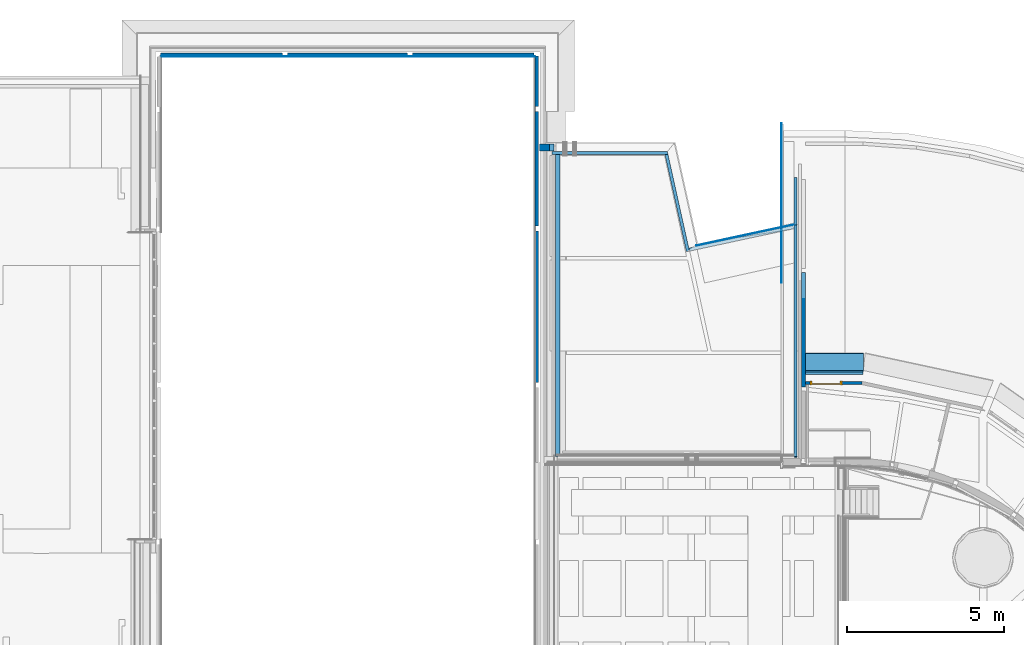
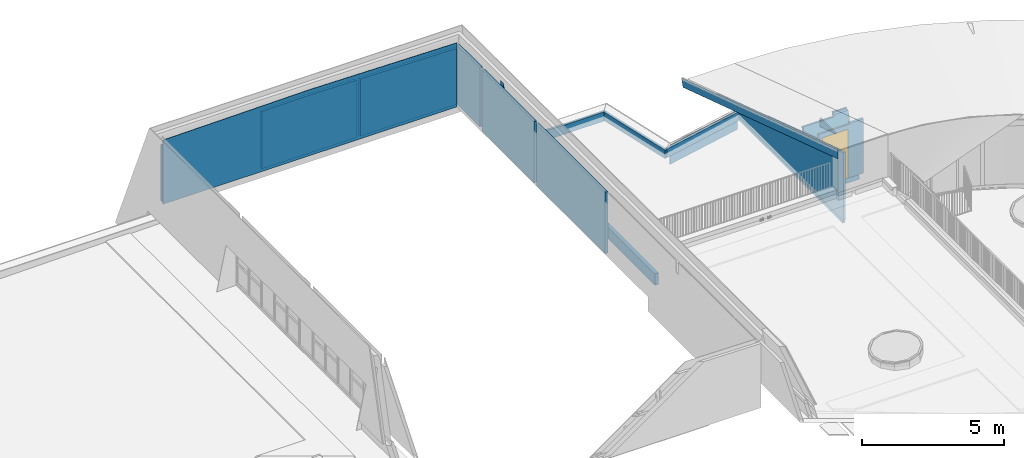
# One storey, part 37 of 66: 20 walls, 1 door, 3 openings.
"""IFC2X3 building model written with IfcOpenShell, lengths in millimetres."""

import ifcopenshell
import ifcopenshell.guid

model = None  # the IFC model being written
_history = None  # IfcOwnerHistory: only IFC2X3 demands one
_inside = {}  # id of a spatial element -> (the spatial element, [elements in it])
_under = {}  # id of a project, library or spatial element -> (it, [spatial elements below it])
_declared = {}  # id of a project -> (the project, [libraries it declares])
_typed = {}  # id of a type object -> (the type object, [elements of that type])
_made_of = {}  # id of a material, layer set ... -> (it, [elements and type objects made of it])


def new_model(schema):
    """Start an empty IFC model of exactly this schema.

    Asked for "IFC4X3", IfcOpenShell would pick the latest addendum, in which some entities
    have other attributes; the version numbers below select the first issue.
    IFC2X3 requires an IfcOwnerHistory on every rooted entity: one is made here for all.
    """
    global model, _history
    if schema == "IFC4X3":
        model = ifcopenshell.file(schema_version=(4, 3, 0, 0))
    else:
        model = ifcopenshell.file(schema=schema)
    _inside.clear()
    _under.clear()
    _declared.clear()
    _typed.clear()
    _made_of.clear()
    _history = None
    if model.schema == "IFC2X3":
        org = make("IfcOrganization", Name="unknown")
        user = make(
            "IfcPersonAndOrganization",
            ThePerson=make("IfcPerson", FamilyName="unknown"),
            TheOrganization=org,
        )
        app = make(
            "IfcApplication",
            ApplicationDeveloper=org,
            Version="unknown",
            ApplicationFullName="unknown",
            ApplicationIdentifier="unknown",
        )
        _history = make(
            "IfcOwnerHistory",
            OwningUser=user,
            OwningApplication=app,
            ChangeAction="ADDED",
            CreationDate=0,
        )
    return model


def make(cls, **values):
    """One entity of the class cls with the attributes given. An attribute that is None is left unset."""
    return model.create_entity(
        cls, **{name: value for name, value in values.items() if value is not None}
    )


def entity(cls, *values):
    """Any entity or typed value of the class cls, its attributes in the order of the schema. None: left unset."""
    e = model.create_entity(cls)
    for i, value in enumerate(values):
        if value is not None:
            e[i] = value
    return e


def rooted(cls, **values):
    """An entity with a GlobalId (a new one), such as an element, a storey or a relation."""
    return make(cls, GlobalId=ifcopenshell.guid.new(), OwnerHistory=_history, **values)


def si_unit(unit_type, name, prefix=None):
    """IfcSIUnit, for example si_unit("LENGTHUNIT", "METRE", prefix="MILLI")."""
    return make("IfcSIUnit", UnitType=unit_type, Prefix=prefix, Name=name)


def converted_unit(unit_type, name, factor, base, dimensions=None, offset=None):
    """IfcConversionBasedUnit, such as the inch: factor (a typed value) times the base unit."""
    return make(
        "IfcConversionBasedUnit"
        if offset is None
        else "IfcConversionBasedUnitWithOffset",
        ConversionOffset=offset,
        Dimensions=None
        if dimensions is None
        else entity("IfcDimensionalExponents", *dimensions),
        UnitType=unit_type,
        Name=name,
        ConversionFactor=make(
            "IfcMeasureWithUnit", ValueComponent=factor, UnitComponent=base
        ),
    )


def derived_unit(unit_type, elements):
    """IfcDerivedUnit: a product of units, each with its exponent."""
    return make(
        "IfcDerivedUnit",
        Elements=[
            make("IfcDerivedUnitElement", Unit=unit, Exponent=power)
            for unit, power in elements
        ],
        UnitType=unit_type,
    )


def assignment(units):
    """IfcUnitAssignment: the units of a project."""
    return None if units is None else make("IfcUnitAssignment", Units=units)


def point(xyz):
    """IfcCartesianPoint."""
    return None if xyz is None else make("IfcCartesianPoint", Coordinates=xyz)


def direction(xyz):
    """IfcDirection."""
    return None if xyz is None else make("IfcDirection", DirectionRatios=xyz)


def frame(location, z_axis=None, x_axis=None):
    """IfcAxis2Placement3D, a coordinate frame: its origin and axes. An axis left out is left unset."""
    return make(
        "IfcAxis2Placement3D",
        Location=point(location),
        Axis=direction(z_axis),
        RefDirection=direction(x_axis),
    )


def frame_2d(location, x_axis=None):
    """IfcAxis2Placement2D, a coordinate frame in the plane: its origin and x axis."""
    return make(
        "IfcAxis2Placement2D", Location=point(location), RefDirection=direction(x_axis)
    )


def origin():
    """The frame at (0, 0, 0) with its axes left unset."""
    return frame((0.0, 0.0, 0.0))


def place(relative_to, where):
    """IfcLocalPlacement: puts the frame where relative to a parent placement (None: the world)."""
    return make(
        "IfcLocalPlacement", PlacementRelTo=relative_to, RelativePlacement=where
    )


def context(
    kind, dimensions, precision=None, world=None, true_north=None, identifier=None
):
    """IfcGeometricRepresentationContext, for example the 3D "Model" context."""
    return make(
        "IfcGeometricRepresentationContext",
        ContextIdentifier=identifier,
        ContextType=kind,
        CoordinateSpaceDimension=dimensions,
        Precision=precision,
        WorldCoordinateSystem=world,
        TrueNorth=true_north,
    )


def subcontext(parent, identifier, kind, view, scale=None):
    """IfcGeometricRepresentationSubContext, for example "Body" below "Model"."""
    return make(
        "IfcGeometricRepresentationSubContext",
        ContextIdentifier=identifier,
        ContextType=kind,
        ParentContext=parent,
        TargetScale=scale,
        TargetView=view,
    )


def project(units=None, contexts=None):
    """IfcProject with its units and contexts."""
    return rooted(
        "IfcProject",
        Name="project",
        RepresentationContexts=contexts,
        UnitsInContext=assignment(units),
    )


def spatial(cls, under=None, at=None, **own):
    """A site, building, storey or space (cls), placed at a placement, below another one or the project."""
    s = rooted(cls, ObjectPlacement=at, **own)
    if under is not None:
        _under.setdefault(under.id(), (under, []))[1].append(s)
    return s


def polyline(points):
    """IfcPolyline through the points."""
    return make("IfcPolyline", Points=[point(p) for p in points])


def profile(cls, at=None, kind="AREA", **sizes):
    """A parametric profile (cls). Its sizes go by their IFC names, for example OverallWidth=200.0."""
    return make(cls, ProfileType=kind, Position=at, **sizes)


def rectangle(**sizes):
    """IfcRectangleProfileDef."""
    return profile("IfcRectangleProfileDef", **sizes)


def outline(outer, holes=None, kind="AREA"):
    """IfcArbitraryClosedProfileDef: a profile drawn as a closed curve; with holes, ...WithVoids."""
    if holes is None:
        return make("IfcArbitraryClosedProfileDef", ProfileType=kind, OuterCurve=outer)
    return make(
        "IfcArbitraryProfileDefWithVoids",
        ProfileType=kind,
        OuterCurve=outer,
        InnerCurves=holes,
    )


def extrude(swept, where, along, depth):
    """IfcExtrudedAreaSolid: the profile swept, set in the frame where, extruded along a direction by depth."""
    return make(
        "IfcExtrudedAreaSolid",
        SweptArea=swept,
        Position=where,
        ExtrudedDirection=direction(along),
        Depth=depth,
    )


def clip(a, b, op="DIFFERENCE"):
    """IfcBooleanClippingResult: the solid a cut by the half space b."""
    return make(
        "IfcBooleanClippingResult", Operator=op, FirstOperand=a, SecondOperand=b
    )


def halfspace(plane, agree):
    """IfcHalfSpaceSolid: all space on one side of the plane z = 0 of the frame plane."""
    return make(
        "IfcHalfSpaceSolid",
        BaseSurface=make("IfcPlane", Position=plane),
        AgreementFlag=agree,
    )


def bounded_halfspace(plane, agree, where, boundary):
    """IfcPolygonalBoundedHalfSpace: a half space limited to a polygon's prism."""
    return make(
        "IfcPolygonalBoundedHalfSpace",
        BaseSurface=make("IfcPlane", Position=plane),
        AgreementFlag=agree,
        Position=where,
        PolygonalBoundary=boundary,
    )


def faces_of(points, faces, orient=None, outer=None):
    """IfcFace entities. A face is a list of loops; a loop is a list of indices into points, from 0.

    orient and outer hold one flag for each loop. By default every Orientation is true, the
    first loop of a face is its IfcFaceOuterBound and the others are IfcFaceBound.
    """
    made = []
    for i, loops in enumerate(faces):
        bounds = []
        for j, loop in enumerate(loops):
            is_outer = j == 0 if outer is None else outer[i][j]
            bounds.append(
                make(
                    "IfcFaceOuterBound" if is_outer else "IfcFaceBound",
                    Bound=make("IfcPolyLoop", Polygon=[points[k] for k in loop]),
                    Orientation=True if orient is None else orient[i][j],
                )
            )
        made.append(make("IfcFace", Bounds=bounds))
    return made


def faceted_brep(points, faces, orient=None, outer=None, voids=None):
    """IfcFacetedBrep: a solid bounded by flat faces; with voids (closed shells), ...WithVoids."""
    shared = [point(p) for p in points]
    hull = make("IfcClosedShell", CfsFaces=faces_of(shared, faces, orient, outer))
    if voids is None:
        return make("IfcFacetedBrep", Outer=hull)
    return make(
        "IfcFacetedBrepWithVoids",
        Outer=hull,
        Voids=[
            make(cls, CfsFaces=faces_of(shared, fs, o, b)) for cls, fs, o, b in voids
        ],
    )


def shape(context_of_items, identifier, shape_type, items):
    """IfcShapeRepresentation: the items that make up one representation, for example the "Body"."""
    return make(
        "IfcShapeRepresentation",
        ContextOfItems=context_of_items,
        RepresentationIdentifier=identifier,
        RepresentationType=shape_type,
        Items=items,
    )


def source(mapping_origin, context_of_items, identifier, shape_type, items):
    """IfcRepresentationMap: a shape defined once, which mapped items show again and again."""
    return make(
        "IfcRepresentationMap",
        MappingOrigin=mapping_origin,
        MappedRepresentation=shape(context_of_items, identifier, shape_type, items),
    )


def transform(
    local_origin,
    x_axis=None,
    y_axis=None,
    z_axis=None,
    scale=None,
    scale2=None,
    scale3=None,
    uniform=True,
):
    """IfcCartesianTransformationOperator3D, or its non-uniform kind. x_axis, y_axis, z_axis: its Axis1, 2, 3."""
    if uniform:
        return make(
            "IfcCartesianTransformationOperator3D",
            Axis1=direction(x_axis),
            Axis2=direction(y_axis),
            LocalOrigin=point(local_origin),
            Scale=scale,
            Axis3=direction(z_axis),
        )
    return make(
        "IfcCartesianTransformationOperator3DnonUniform",
        Axis1=direction(x_axis),
        Axis2=direction(y_axis),
        LocalOrigin=point(local_origin),
        Scale=scale,
        Axis3=direction(z_axis),
        Scale2=scale2,
        Scale3=scale3,
    )


def mapped(mapping_source, mapping_target):
    """IfcMappedItem: shows the shape of a source again, moved by a transform."""
    return make(
        "IfcMappedItem", MappingSource=mapping_source, MappingTarget=mapping_target
    )


def material(Name=None, Category=None):
    """IfcMaterial."""
    return make("IfcMaterial", Name=Name, Category=Category)


def material_list(materials):
    """IfcMaterialList."""
    return make("IfcMaterialList", Materials=materials)


def layer(
    of_material, thickness, ventilated=None, Name=None, Category=None, Priority=None
):
    """IfcMaterialLayer: one layer of a wall or slab, of a material (None: an air gap)."""
    return make(
        "IfcMaterialLayer",
        Material=of_material,
        LayerThickness=thickness,
        IsVentilated=ventilated,
        Name=Name,
        Category=Category,
        Priority=Priority,
    )


def layer_set(layers, Name=None):
    """IfcMaterialLayerSet."""
    return make("IfcMaterialLayerSet", MaterialLayers=layers, LayerSetName=Name)


def layer_usage(for_layer_set, set_direction, sense, offset, extent=None):
    """IfcMaterialLayerSetUsage: how a layer set lies in its element."""
    return make(
        "IfcMaterialLayerSetUsage",
        ForLayerSet=for_layer_set,
        LayerSetDirection=set_direction,
        DirectionSense=sense,
        OffsetFromReferenceLine=offset,
        ReferenceExtent=extent,
    )


def made_of(thing, what):
    """Note that an element or type object is made of a material, layer set ...; save() writes the relation."""
    if what is not None:
        _made_of.setdefault(what.id(), (what, []))[1].append(thing)
    return thing


def type_object(cls, material=None, **own):
    """A type object (cls), such as IfcWallType, which elements share."""
    return made_of(rooted(cls, **own), material)


def type_shapes(of_type, sources):
    """Give a type object the sources (RepresentationMaps) that its elements show as mapped items."""
    of_type.RepresentationMaps = sources


def element(
    cls,
    number,
    at=None,
    inside=None,
    cuts=None,
    type_object=None,
    material=None,
    context=None,
    identifier="Body",
    shape_type=None,
    held_by="IfcProductDefinitionShape",
    body=None,
    shapes=None,
    **own,
):
    """One element of the class cls, such as IfcWall. Its Tag is "e" and its number.

    at: its placement. inside: the storey or other place that contains it. cuts: it is an
    opening in that element (IfcRelVoidsElement). A single representation is given by context,
    identifier, shape_type and body (its items); several are given by shapes. held_by: the class
    of the entity that holds the representations. save() writes the other relations.
    """
    e = rooted(cls, Tag="e%d" % number, ObjectPlacement=at, **own)
    if body is not None:
        shapes = [shape(context, identifier, shape_type, body)]
    if shapes is not None:
        e.Representation = make(held_by, Representations=shapes)
    if inside is not None:
        _inside.setdefault(inside.id(), (inside, []))[1].append(e)
    if cuts is not None:
        rooted(
            "IfcRelVoidsElement", RelatingBuildingElement=cuts, RelatedOpeningElement=e
        )
    if type_object is not None:
        _typed.setdefault(type_object.id(), (type_object, []))[1].append(e)
    return made_of(e, material)


def fill(opening, filler):
    """IfcRelFillsElement: the door or window that sits in an opening."""
    return rooted(
        "IfcRelFillsElement",
        RelatingOpeningElement=opening,
        RelatedBuildingElement=filler,
    )


def aggregate(whole, parts):
    """IfcRelAggregates: a whole, such as a stair, and the parts it consists of."""
    return rooted("IfcRelAggregates", RelatingObject=whole, RelatedObjects=parts)


def save(model, path):
    """Write the relations noted so far, then the file.

    IfcRelAggregates (storeys below a building ...), IfcRelContainedInSpatialStructure (elements
    in a storey), IfcRelDefinesByType, IfcRelAssociatesMaterial and IfcRelDeclares: one each for
    every whole, place, type object, material and project.
    """
    for whole, parts in _under.values():
        aggregate(whole, parts)
    for where, things in _inside.values():
        rooted(
            "IfcRelContainedInSpatialStructure",
            RelatedElements=things,
            RelatingStructure=where,
        )
    for kind, things in _typed.values():
        rooted("IfcRelDefinesByType", RelatedObjects=things, RelatingType=kind)
    for what, things in _made_of.values():
        rooted("IfcRelAssociatesMaterial", RelatedObjects=things, RelatingMaterial=what)
    for by, libraries in _declared.values():
        rooted("IfcRelDeclares", RelatingContext=by, RelatedDefinitions=libraries)
    model.write(path)


model = new_model("IFC2X3")

# Units and contexts
model_context = context("Model", 3, precision=0.01, world=origin(), true_north=direction((6.12303176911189e-17, 1.0)))
body_context = subcontext(model_context, "Body", "Model", "MODEL_VIEW")
ifc_project = project(units=[si_unit("LENGTHUNIT", "METRE", prefix="MILLI"), si_unit("AREAUNIT", "SQUARE_METRE"), si_unit("VOLUMEUNIT", "CUBIC_METRE"), converted_unit("PLANEANGLEUNIT", "DEGREE", entity("IfcRatioMeasure", 0.0174532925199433), si_unit("PLANEANGLEUNIT", "RADIAN"), dimensions=[0, 0, 0, 0, 0, 0, 0]), si_unit("MASSUNIT", "GRAM", prefix="KILO"), derived_unit("MASSDENSITYUNIT", [(si_unit("MASSUNIT", "GRAM", prefix="KILO"), 1), (si_unit("LENGTHUNIT", "METRE"), -3)]), derived_unit("MOMENTOFINERTIAUNIT", [(si_unit("LENGTHUNIT", "METRE"), 4)]), si_unit("TIMEUNIT", "SECOND"), si_unit("FREQUENCYUNIT", "HERTZ"), si_unit("THERMODYNAMICTEMPERATUREUNIT", "DEGREE_CELSIUS"), derived_unit("THERMALTRANSMITTANCEUNIT", [(si_unit("MASSUNIT", "GRAM", prefix="KILO"), 1), (si_unit("THERMODYNAMICTEMPERATUREUNIT", "KELVIN"), -1), (si_unit("TIMEUNIT", "SECOND"), -3)]), derived_unit("VOLUMETRICFLOWRATEUNIT", [(si_unit("LENGTHUNIT", "METRE"), 3), (si_unit("TIMEUNIT", "SECOND"), -1)]), si_unit("ELECTRICCURRENTUNIT", "AMPERE"), si_unit("ELECTRICVOLTAGEUNIT", "VOLT"), si_unit("POWERUNIT", "WATT"), si_unit("FORCEUNIT", "NEWTON", prefix="KILO"), si_unit("ILLUMINANCEUNIT", "LUX"), si_unit("LUMINOUSFLUXUNIT", "LUMEN"), si_unit("LUMINOUSINTENSITYUNIT", "CANDELA"), derived_unit("USERDEFINED", [(si_unit("MASSUNIT", "GRAM", prefix="KILO"), -1), (si_unit("LENGTHUNIT", "METRE"), -2), (si_unit("TIMEUNIT", "SECOND"), 3), (si_unit("LUMINOUSFLUXUNIT", "LUMEN"), 1)]), derived_unit("LINEARVELOCITYUNIT", [(si_unit("LENGTHUNIT", "METRE"), 1), (si_unit("TIMEUNIT", "SECOND"), -1)]), si_unit("PRESSUREUNIT", "PASCAL"), derived_unit("USERDEFINED", [(si_unit("LENGTHUNIT", "METRE"), -2), (si_unit("MASSUNIT", "GRAM", prefix="KILO"), 1), (si_unit("TIMEUNIT", "SECOND"), -2)]), derived_unit("LINEARFORCEUNIT", [(si_unit("MASSUNIT", "GRAM", prefix="KILO"), 1), (si_unit("LENGTHUNIT", "METRE"), 1), (si_unit("TIMEUNIT", "SECOND"), -2), (si_unit("LENGTHUNIT", "METRE"), -1)]), derived_unit("PLANARFORCEUNIT", [(si_unit("MASSUNIT", "GRAM", prefix="KILO"), 1), (si_unit("LENGTHUNIT", "METRE"), 1), (si_unit("TIMEUNIT", "SECOND"), -2), (si_unit("LENGTHUNIT", "METRE"), -2)])], contexts=[model_context])

# Site, building, storey
site_placement = place(None, origin())
site = spatial("IfcSite", under=ifc_project, at=site_placement, Name="Default", CompositionType="ELEMENT")
building_placement = place(site_placement, origin())
building = spatial("IfcBuilding", under=site, at=building_placement, Name="-", CompositionType="ELEMENT")
storey_placement = place(building_placement, frame((0.0, 0.0, 3070.0)))
storey = spatial("IfcBuildingStorey", under=building, at=storey_placement, Name="01 eerste verdieping", CompositionType="ELEMENT", Elevation=3070.00000000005)

# Walls
ifc_material_1 = material(Name="NLRS_f1_kalkzandsteen_CS20")
ifc_layer_1 = layer(ifc_material_1, 120.0)
ifc_layer_set_1 = layer_set([ifc_layer_1], Name="Basic Wall:NLRS_21_WA_kalkzandsteen_120mm_CS20_gen_aly")
ifc_layer_usage_1 = layer_usage(ifc_layer_set_1, "AXIS2", "NEGATIVE", 60.0)
wall_type_1 = type_object("IfcWallType", Name="Basic Wall:NLRS_21_WA_kalkzandsteen_120mm_CS20_gen_aly", PredefinedType="STANDARD", material=ifc_layer_set_1)
wall_1_placement = place(storey_placement, frame((49329.6203901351, 34996.443084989, 62.0), z_axis=(0.0, 0.0, 1.0), x_axis=(0.0, -1.0, 0.0)))
element("IfcWallStandardCase", 1, at=wall_1_placement, inside=storey, type_object=wall_type_1, material=ifc_layer_usage_1, Name="Basic Wall:NLRS_21_WA_kalkzandsteen_120mm_CS20_gen_aly", ObjectType="Basic Wall:NLRS_21_WA_kalkzandsteen_120mm_CS20_gen_aly", context=body_context, shape_type="Clipping", body=[
    clip(extrude(rectangle(XDim=3646.49854924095, YDim=120.000000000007, at=frame_2d((1823.24927462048, 2.16360263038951e-12), x_axis=(-1.0, 0.0))), origin(), (0.0, 0.0, 1.0), 2176.49640837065), halfspace(frame((0.0, -60.0, 971.177378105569), z_axis=(-0.313841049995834, 0.0, 0.9494755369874), x_axis=(0.0, 1.0, 0.0)), False)),
])
ifc_material_2 = material(Name="NLRS_i4_hout_multiplex")
ifc_layer_2 = layer(ifc_material_2, 9.0)
ifc_material_3 = material(Name="NLRS_m1_isolatie")
ifc_layer_3 = layer(ifc_material_3, 89.0)
ifc_layer_4 = layer(ifc_material_2, 9.0)
ifc_layer_set_2 = layer_set([ifc_layer_2, ifc_layer_3, ifc_layer_4], Name="Basic Wall:NLRS_21_WA_HSB-wand_110mm")
ifc_layer_usage_2 = layer_usage(ifc_layer_set_2, "AXIS2", "POSITIVE", -53.5)
wall_type_2 = type_object("IfcWallType", Name="Basic Wall:NLRS_21_WA_HSB-wand_110mm", PredefinedType="STANDARD", material=ifc_layer_set_2)
wall_2_placement = place(storey_placement, frame((28812.0, 41951.3202504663, 345.0)))
element("IfcWallStandardCase", 2, at=wall_2_placement, inside=storey, type_object=wall_type_2, material=ifc_layer_usage_2, Name="Basic Wall:NLRS_21_WA_HSB-wand_110mm", ObjectType="Basic Wall:NLRS_21_WA_HSB-wand_110mm", context=body_context, shape_type="Clipping", body=[
    clip(extrude(rectangle(XDim=3884.0, YDim=106.999999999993, at=frame_2d((1942.0, -2.59348098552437e-13), x_axis=(-1.0, 0.0))), origin(), (0.0, 0.0, 1.0), 2453.98208851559), halfspace(frame((0.0, -53.5000000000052, 2400.01716388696), z_axis=(-0.0138928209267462, 0.0, 0.999903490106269), x_axis=(0.0, 1.0, 0.0)), False)),
])
ifc_layer_usage_3 = layer_usage(ifc_layer_set_2, "AXIS2", "POSITIVE", -53.5)
wall_3_placement = place(storey_placement, frame((32856.0, 41951.3202504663, 345.0)))
element("IfcWallStandardCase", 3, at=wall_3_placement, inside=storey, type_object=wall_type_2, material=ifc_layer_usage_3, Name="Basic Wall:NLRS_21_WA_HSB-wand_110mm", ObjectType="Basic Wall:NLRS_21_WA_HSB-wand_110mm", context=body_context, shape_type="Clipping", body=[
    clip(clip(extrude(rectangle(XDim=3828.00000000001, YDim=106.999999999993, at=frame_2d((1914.0, -3.80140363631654e-13), x_axis=(-1.0, 0.0))), origin(), (0.0, 0.0, 1.0), 2482.96524468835), halfspace(frame((1925.99528952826, -53.5000000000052, 2482.96524468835), z_axis=(0.0138961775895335, 0.0, 0.999903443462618), x_axis=(0.0, 1.0, 0.0)), False)), halfspace(frame((0.0, -53.5000000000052, 2456.20515441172), z_axis=(-0.013892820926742, 0.0, 0.999903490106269), x_axis=(0.0, 1.0, 0.0)), False)),
])
ifc_layer_usage_4 = layer_usage(ifc_layer_set_2, "AXIS2", "POSITIVE", -53.5)
wall_4_placement = place(storey_placement, frame((36844.0, 41951.3202504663, 345.0)))
element("IfcWallStandardCase", 4, at=wall_4_placement, inside=storey, type_object=wall_type_2, material=ifc_layer_usage_4, Name="Basic Wall:NLRS_21_WA_HSB-wand_110mm", ObjectType="Basic Wall:NLRS_21_WA_HSB-wand_110mm", context=body_context, shape_type="Clipping", body=[
    clip(extrude(rectangle(XDim=3892.00000000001, YDim=106.999999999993, at=frame_2d((1946.0, -2.38031816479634e-13), x_axis=(-1.0, 0.0))), origin(), (0.0, 0.0, 1.0), 2454.30849404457), halfspace(frame((0.0, -53.5000000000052, 2454.30849404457), z_axis=(0.0138961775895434, 0.0, 0.999903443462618), x_axis=(0.0, 1.0, 0.0)), False)),
])
ifc_layer_usage_5 = layer_usage(ifc_layer_set_2, "AXIS2", "POSITIVE", -53.5)
wall_5_placement = place(storey_placement, frame((40817.500000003, 36324.8202504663, 245.0), z_axis=(0.0, 0.0, 1.0), x_axis=(0.0, -1.0, 0.0)))
element("IfcWallStandardCase", 5, at=wall_5_placement, inside=storey, type_object=wall_type_2, material=ifc_layer_usage_5, Name="Basic Wall:NLRS_21_WA_HSB-wand_110mm", ObjectType="Basic Wall:NLRS_21_WA_HSB-wand_110mm", context=body_context, shape_type="SweptSolid", body=[
    extrude(rectangle(XDim=4830.0, YDim=106.999999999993, at=frame_2d((2415.0, 0.0), x_axis=(-1.0, 0.0))), origin(), (0.0, 0.0, 1.0), 2637.52593752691),
])
ifc_layer_usage_6 = layer_usage(ifc_layer_set_2, "AXIS2", "POSITIVE", -53.5)
wall_6_placement = place(storey_placement, frame((40817.2709756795, 40131.8575638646, 245.0), z_axis=(0.0, 0.0, 1.0), x_axis=(0.0, -1.0, 0.0)))
element("IfcWallStandardCase", 6, at=wall_6_placement, inside=storey, type_object=wall_type_2, material=ifc_layer_usage_6, Name="Basic Wall:NLRS_21_WA_HSB-wand_110mm", ObjectType="Basic Wall:NLRS_21_WA_HSB-wand_110mm", context=body_context, shape_type="SweptSolid", body=[
    extrude(rectangle(XDim=3647.03731339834, YDim=106.999999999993, at=frame_2d((1823.51865669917, 0.0), x_axis=(-1.0, 0.0))), origin(), (0.0, 0.0, 1.0), 2637.52593752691),
])
ifc_layer_usage_7 = layer_usage(ifc_layer_set_2, "AXIS2", "POSITIVE", -53.5)
wall_7_placement = place(storey_placement, frame((40818.0496137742, 41902.8202504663, 345.0), z_axis=(0.0, 0.0, 1.0), x_axis=(0.0, -1.0, 0.0)))
element("IfcWallStandardCase", 7, at=wall_7_placement, inside=storey, type_object=wall_type_2, material=ifc_layer_usage_7, Name="Basic Wall:NLRS_21_WA_HSB-wand_110mm", ObjectType="Basic Wall:NLRS_21_WA_HSB-wand_110mm", context=body_context, shape_type="SweptSolid", body=[
    extrude(rectangle(XDim=1610.96268660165, YDim=106.999999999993, at=frame_2d((805.481343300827, -3.90798504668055e-14), x_axis=(-1.0, 0.0))), origin(), (0.0, 0.0, 1.0), 2537.52593752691),
])

# Wall, opening, door
ifc_material_4 = material(Name="NLRS_f7_gipsplaat_gen")
ifc_layer_5 = layer(ifc_material_4, 12.5)
ifc_layer_6 = layer(ifc_material_3, 75.0)
ifc_layer_7 = layer(ifc_material_4, 12.5)
ifc_layer_set_3 = layer_set([ifc_layer_5, ifc_layer_6, ifc_layer_7], Name="Basic Wall:NLRS_21_WA_Metalstud 100mm")
wall_type_3 = type_object("IfcWallType", Name="Basic Wall:NLRS_21_WA_Metalstud 100mm", PredefinedType="STANDARD", material=ifc_layer_set_3)
wall_8_placement = place(storey_placement, frame((49389.6203901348, 31473.676056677, 100.0)))
wall_8 = element("IfcWall", 8, at=wall_8_placement, inside=storey, type_object=wall_type_3, Name="Basic Wall:NLRS_21_WA_Metalstud 100mm", ObjectType="Basic Wall:NLRS_21_WA_Metalstud 100mm", context=body_context, shape_type="Brep", body=[
    faceted_brep([(1799.6962722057, -50.0, 0.0), (1799.6962722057, -50.0, 2327.54873602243), (1256.4264167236, -50.0, 2327.54873602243), (1256.42641672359, -50.0, 2286.57909855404), (0.0, -50.0, 2286.57909855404), (0.0, -50.0, 0.0), (29.5000000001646, -50.0, 0.0), (92.0, -50.0, 0.0), (142.426416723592, -50.0, 0.0), (142.426416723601, -50.0, 2092.0), (1176.42641672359, -50.0, 2092.0), (1176.42641672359, -50.0, 0.0), (1810.29240566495, 50.0, 2327.54873602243), (1810.29240566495, 50.0, 0.0), (1176.42641672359, 50.0, 0.0), (1176.42641672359, 50.0, 2092.0), (142.426416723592, 50.0, 2092.0), (142.4264167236, 50.0, 0.0), (0.0, 50.0, 0.0), (0.0, 50.0, 2254.08712893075), (1256.4264167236, 50.0, 2254.08712893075), (1256.42641672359, 50.0, 2327.54873602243)], [[[0, 1, 2, 3, 4, 5, 6, 7, 8, 9, 10, 11]], [[12, 13, 14, 15, 16, 17, 18, 19, 20, 21]], [[5, 18, 17, 8, 7, 6]], [[1, 12, 21, 2]], [[20, 3, 2, 21]], [[3, 20, 19, 4]], [[18, 5, 4, 19]], [[1, 0, 13, 12]], [[16, 9, 8, 17]], [[9, 16, 15, 10]], [[10, 15, 14, 11]], [[13, 0, 11, 14]]]),
])
opening_1_placement = place(wall_8_placement, frame((1176.4264167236, 50.0, -50.0)))
opening_1 = element("IfcOpeningElement", 9, at=opening_1_placement, cuts=wall_8, Name="AL_32.i_Binnenkozijn-enkeledeur_Linksdraaiend:Merk a.sp (2000mm hoog):1", ObjectType="Opening", context=body_context, shape_type="SweptSolid", body=[
    extrude(rectangle(XDim=2142.00000000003, YDim=1034.0, at=frame_2d((1071.00000000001, 516.999999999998), x_axis=(1.0, 0.0))), frame((0.0, 0.0, 0.0), z_axis=(0.0, -1.0, 0.0), x_axis=(0.0, 0.0, 1.0)), (0.0, 0.0, 1.0), 100.0),
])
ifc_material_5 = material(Name="NLRS_i3_hout_Loofhout (hardhout) RAL 9002")
ifc_material_6 = material(Name="<Unnamed>")
ifc_material_7 = material(Name="31_Glas")
ifc_material_list = material_list([ifc_material_6, ifc_material_7, ifc_material_6, ifc_material_5])
door_style = type_object("IfcDoorStyle", Name="AL_32.i_Binnenkozijn-enkeledeur_Linksdraaiend:Merk a.sp (2000mm hoog)", ConstructionType="NOTDEFINED", OperationType="SINGLE_SWING_LEFT", ParameterTakesPrecedence=False, Sizeable=False, material=ifc_material_list)
shared_shape = source(origin(), body_context, "Body", "Brep", [
    faceted_brep([(982.0, 40.0, 75.0), (52.0, 40.0, 75.0), (52.0, 40.0, 2090.0), (982.0, 40.0, 2090.0), (982.0, 0.0, 75.0), (52.0, 0.0, 75.0), (52.0, 0.0, 2090.0), (982.0, 0.0, 2090.0)], [[[0, 1, 2, 3]], [[1, 0, 4, 5]], [[2, 1, 5, 6]], [[0, 3, 7, 4]], [[4, 7, 6, 5]], [[3, 2, 6, 7]]]),
    faceted_brep([(984.0, -7.0, 50.0), (984.0, 42.0, 50.0), (967.0, 42.0, 50.0), (967.0, 107.0, 50.0), (1034.0, 107.0, 50.0), (1034.0, 77.0, 50.0), (1025.0, 77.0, 50.0), (1025.0, 23.0, 50.0), (1034.0, 23.0, 50.0), (1034.0, -7.0, 50.0), (984.0, -7.0, 2092.0), (984.0, 42.0, 2092.0), (50.0, 42.0, 2092.0), (50.0, 42.0, 50.0), (67.0, 42.0, 50.0), (67.0, 42.0, 2075.0), (967.0, 42.0, 2075.0), (967.0, 107.0, 2075.0), (67.0, 107.0, 2075.0), (67.0, 107.0, 50.0), (0.0, 107.0, 50.0), (0.0, 107.0, 2142.0), (1034.0, 107.0, 2142.0), (1034.0, 77.0, 2142.0), (0.0, 77.0, 2142.0), (0.0, 77.0, 50.0), (9.0, 77.0, 50.0), (9.0, 77.0, 2133.0), (1025.0, 77.0, 2133.0), (1025.0, 23.0, 2133.0), (9.0, 23.0, 2133.0), (9.0, 23.0, 50.0), (0.0, 23.0, 50.0), (0.0, 23.0, 2142.0), (1034.0, 23.0, 2142.0), (1034.0, -7.0, 2142.0), (0.0, -7.0, 2142.0), (0.0, -7.0, 50.0), (50.0, -7.0, 50.0), (50.0, -7.0, 2092.0)], [[[0, 1, 2, 3, 4, 5, 6, 7, 8, 9]], [[1, 0, 10, 11]], [[2, 1, 11, 12, 13, 14, 15, 16]], [[3, 2, 16, 17]], [[4, 3, 17, 18, 19, 20, 21, 22]], [[5, 4, 22, 23]], [[6, 5, 23, 24, 25, 26, 27, 28]], [[7, 6, 28, 29]], [[8, 7, 29, 30, 31, 32, 33, 34]], [[9, 8, 34, 35]], [[0, 9, 35, 36, 37, 38, 39, 10]], [[38, 37, 32, 31, 26, 25, 20, 19, 14, 13]], [[36, 33, 32, 37]], [[30, 27, 26, 31]], [[24, 21, 20, 25]], [[18, 15, 14, 19]], [[12, 39, 38, 13]], [[17, 16, 15, 18]], [[23, 22, 21, 24]], [[35, 34, 33, 36]], [[11, 10, 39, 12]], [[29, 28, 27, 30]]]),
])
type_shapes(door_style, [shared_shape])
door_placement = place(opening_1_placement, frame((-1034.0, -100.0, 0.0)))
door = element("IfcDoor", 10, at=door_placement, inside=storey, type_object=door_style, material=ifc_material_5, Name="AL_32.i_Binnenkozijn-enkeledeur_Linksdraaiend:Merk a.sp (2000mm hoog)", ObjectType="AL_32.i_Binnenkozijn-enkeledeur_Linksdraaiend:Merk a.sp (2000mm hoog)", OverallHeight=2142.00000000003, OverallWidth=1034.0, context=body_context, shape_type="MappedRepresentation", body=[
    mapped(shared_shape, transform((0.0, 0.0, 0.0), scale=1.0)),
])
fill(opening_1, door)

# Walls
ifc_material_8 = material(Name="NLRS_g2_baksteen hf-225x105x42-10mm voeg halfsteens rood genuanceerd_gen")
ifc_layer_8 = layer(ifc_material_8, 100.0)
ifc_layer_set_4 = layer_set([ifc_layer_8], Name="Basic Wall:NLRS_20_WA_Metselwerk 100mm, Eems wf-p-0081-25")
ifc_layer_usage_8 = layer_usage(ifc_layer_set_4, "AXIS2", "NEGATIVE", 50.0)
wall_type_4 = type_object("IfcWallType", Name="Basic Wall:NLRS_20_WA_Metselwerk 100mm, Eems wf-p-0081-25", PredefinedType="STANDARD", material=ifc_layer_set_4)
wall_9_placement = place(storey_placement, frame((49074.6203901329, 29089.7067824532, 240.0), z_axis=(0.0, 0.0, 1.0), x_axis=(0.0, 1.0, 0.0)))
element("IfcWallStandardCase", 11, at=wall_9_placement, inside=storey, type_object=wall_type_4, material=ifc_layer_usage_8, Name="Basic Wall:NLRS_20_WA_Metselwerk 100mm, Eems wf-p-0081-25", ObjectType="Basic Wall:NLRS_20_WA_Metselwerk 100mm, Eems wf-p-0081-25", context=body_context, shape_type="Clipping", body=[
    clip(extrude(rectangle(XDim=8940.4604270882, YDim=99.9999999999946, at=frame_2d((4470.2302135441, 2.1422863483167e-12), x_axis=(-1.0, 0.0))), origin(), (0.0, 0.0, 1.0), 2904.93168615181), halfspace(frame((0.0, -50.0, 2904.93168615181), z_axis=(0.309016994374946, 0.0, 0.951056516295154), x_axis=(0.0, 1.0, 0.0)), False)),
])
ifc_layer_9 = layer(ifc_material_4, 12.5)
ifc_layer_10 = layer(ifc_material_3, 89.0)
ifc_layer_11 = layer(ifc_material_4, 12.5)
ifc_layer_set_5 = layer_set([ifc_layer_9, ifc_layer_10, ifc_layer_11], Name="Basic Wall:NLRS_21_WA_HSB-wand_114mm")
wall_type_5 = type_object("IfcWallType", Name="Basic Wall:NLRS_21_WA_HSB-wand_114mm", PredefinedType="STANDARD", material=ifc_layer_set_5)
wall_10_placement = place(storey_placement, frame((51323.4312406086, 31933.6094034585, -370.0), z_axis=(0.0, 0.0, 1.0), x_axis=(-1.0, 0.0, 0.0)))
element("IfcWall", 12, at=wall_10_placement, inside=storey, type_object=wall_type_5, material=ifc_layer_set_5, Name="Basic Wall:NLRS_21_WA_HSB-wand_114mm", ObjectType="Basic Wall:NLRS_21_WA_HSB-wand_114mm", context=body_context, shape_type="Clipping", body=[
    clip(clip(clip(extrude(outline(polyline([(1933.81085047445, 60.2869408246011), (1933.81085047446, 180.153634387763), (97.7406787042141, 180.153634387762), (85.0394438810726, 60.2869408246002), (1933.81085047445, 60.2869408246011)])), origin(), (0.0, -0.309016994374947, 0.951056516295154), 2597.11169386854), bounded_halfspace(frame((79.1914636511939, 5.09718455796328, 452.0), z_axis=(0.0, -1.0, 0.0), x_axis=(0.0, 0.0, 1.0)), True, frame((79.1914636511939, 5.09718455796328, 452.0), z_axis=(0.0, -1.0, 0.0), x_axis=(0.0, 0.0, 1.0)), polyline([(0.0, 0.0), (-221.0, 0.0), (-221.0, -1854.61938682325), (0.0, -1854.61938682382), (0.0, 0.0)]))), bounded_halfspace(frame((677.384433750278, -706.913918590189, 2361.20145472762), z_axis=(-1.0, 0.0, 0.0), x_axis=(0.0, -1.0, 0.0)), True, frame((677.384433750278, -706.913918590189, 2361.20145472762), z_axis=(-1.0, 0.0, 0.0), x_axis=(0.0, -1.0, 0.0)), polyline([(0.0, 0.0), (35.3507902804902, 108.798545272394), (-84.5159032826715, 108.798545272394), (-108.420442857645, 35.2279373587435), (0.0, 0.0)]))), bounded_halfspace(frame((677.384433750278, -598.493475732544, 2396.42939208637), z_axis=(0.0, -0.309016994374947, 0.951056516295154), x_axis=(1.0, 0.0, 0.0)), False, frame((677.384433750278, -598.493475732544, 2396.42939208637), z_axis=(0.0, -0.309016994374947, 0.951056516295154), x_axis=(1.0, 0.0, 0.0)), polyline([(0.0, 0.0), (0.0, -114.0), (1256.42641672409, -114.0), (1256.4264167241, 0.0), (0.0, 0.0)]))),
])
ifc_material_9 = material(Name="h7_zink zwart")
ifc_layer_12 = layer(ifc_material_9, 3.0)
ifc_layer_set_6 = layer_set([ifc_layer_12], Name="Basic Wall:NLRS_42_WA_beplating_zijkant hellend dak")
ifc_layer_usage_9 = layer_usage(ifc_layer_set_6, "AXIS2", "NEGATIVE", 1.5)
wall_type_6 = type_object("IfcWallType", Name="Basic Wall:NLRS_42_WA_beplating_zijkant hellend dak", PredefinedType="STANDARD", material=ifc_layer_set_6)
wall_11_placement = place(storey_placement, frame((48625.6203901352, 28770.4953625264, -319.658687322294), z_axis=(0.0, 0.0, 1.0), x_axis=(0.0, 1.0, 0.0)))
element("IfcWallStandardCase", 13, at=wall_11_placement, inside=storey, type_object=wall_type_6, material=ifc_layer_usage_9, Name="Basic Wall:NLRS_42_WA_beplating_zijkant hellend dak", ObjectType="Basic Wall:NLRS_42_WA_beplating_zijkant hellend dak", context=body_context, shape_type="Clipping", body=[
    clip(clip(clip(extrude(rectangle(XDim=10993.4175363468, YDim=2.99999999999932, at=frame_2d((5496.70876817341, 1.77113879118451e-12), x_axis=(-1.0, 0.0))), origin(), (0.0, 0.0, 1.0), 3924.81985401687), halfspace(frame((10878.7722314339, -1.49999999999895, 0.0), z_axis=(-0.309016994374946, 0.0, -0.951056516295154), x_axis=(0.0, 1.0, 0.0)), False)), halfspace(frame((0.0, -1.50000000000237, 3924.81985401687), z_axis=(0.309016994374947, 0.0, 0.951056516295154), x_axis=(0.0, 1.0, 0.0)), False)), halfspace(frame((10993.4175363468, -1.49999999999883, 352.841967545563), z_axis=(0.951056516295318, 0.0, -0.309016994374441), x_axis=(0.0, 1.0, 0.0)), False)),
])
ifc_material_10 = material(Name="n6_kunststof_RAL 7035")
ifc_layer_13 = layer(ifc_material_10, 10.0)
ifc_layer_set_7 = layer_set([ifc_layer_13], Name="Basic Wall:NLRS_42_WA_Trespa RAL 7035 - 10mm")
ifc_layer_usage_10 = layer_usage(ifc_layer_set_7, "AXIS2", "NEGATIVE", 5.0)
wall_type_7 = type_object("IfcWallType", Name="Basic Wall:NLRS_42_WA_Trespa RAL 7035 - 10mm", PredefinedType="STANDARD", material=ifc_layer_set_7)
wall_12_placement = place(storey_placement, frame((45901.6235443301, 35857.5085283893, -370.0), z_axis=(0.0, 0.0, 1.0), x_axis=(0.977684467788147, 0.210078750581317, 0.0)))
element("IfcWallStandardCase", 14, at=wall_12_placement, inside=storey, type_object=wall_type_7, material=ifc_layer_usage_10, Name="Basic Wall:NLRS_42_WA_Trespa RAL 7035 - 10mm", ObjectType="Basic Wall:NLRS_42_WA_Trespa RAL 7035 - 10mm", context=body_context, shape_type="SweptSolid", body=[
    extrude(rectangle(XDim=3188.14192973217, YDim=10.0, at=frame_2d((1594.07096486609, -1.0511591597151e-12), x_axis=(-1.0, 0.0))), origin(), (0.0, 0.0, 1.0), 839.099999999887),
])

# Wall, opening
ifc_layer_14 = layer(ifc_material_3, 89.0)
ifc_layer_15 = layer(ifc_material_2, 9.0)
ifc_layer_set_8 = layer_set([ifc_layer_14, ifc_layer_15], Name="Basic Wall:NLRS_21_WA_HSB-wand_98mm")
ifc_layer_usage_11 = layer_usage(ifc_layer_set_8, "AXIS2", "NEGATIVE", 49.0)
wall_type_8 = type_object("IfcWallType", Name="Basic Wall:NLRS_21_WA_HSB-wand_98mm", PredefinedType="STANDARD", material=ifc_layer_set_8)
wall_13_placement = place(storey_placement, frame((41306.2062373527, 38808.0699531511, 72.0000265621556)))
wall_13 = element("IfcWallStandardCase", 15, at=wall_13_placement, inside=storey, type_object=wall_type_8, material=ifc_layer_usage_11, Name="Basic Wall:NLRS_21_WA_HSB-wand_98mm", ObjectType="Basic Wall:NLRS_21_WA_HSB-wand_98mm", context=body_context, shape_type="SweptSolid", body=[
    extrude(outline(polyline([(3700.23054983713, -49.0), (3678.47204771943, 49.0), (0.0, 49.0), (0.0, -49.0), (3700.23054983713, -49.0)])), origin(), (0.0, 0.0, 1.0), 397.099973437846),
])
opening_2_placement = place(wall_13_placement, origin())
element("IfcOpeningElement", 16, at=opening_2_placement, cuts=wall_13, Name="Basic Wall:NLRS_21_WA_HSB-wand_98mm", ObjectType="Opening", context=body_context, shape_type="SweptSolid", body=[
    extrude(rectangle(XDim=59.9999999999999, YDim=99.9999999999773, at=frame_2d((0.0, -2.71782596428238e-13), x_axis=(0.0, 1.0))), frame((411.725147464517, -202.0, 272.514134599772), z_axis=(0.0, 1.0, 0.0), x_axis=(1.0, 0.0, 0.0)), (0.0, 0.0, 1.0), 801.604736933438),
    extrude(rectangle(XDim=59.9999999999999, YDim=99.9999999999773, at=frame_2d((0.0, -2.71782596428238e-13), x_axis=(0.0, 1.0))), frame((721.725147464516, -202.0, 272.514134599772), z_axis=(0.0, 1.0, 0.0), x_axis=(1.0, 0.0, 0.0)), (0.0, 0.0, 1.0), 801.604736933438),
])

# Walls
ifc_layer_usage_12 = layer_usage(ifc_layer_set_8, "AXIS2", "NEGATIVE", 49.0)
wall_14_placement = place(storey_placement, frame((44953.8855292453, 38769.6905794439, 100.0), z_axis=(0.0, 0.0, 1.0), x_axis=(0.216747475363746, -0.976227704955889, 0.0)))
element("IfcWallStandardCase", 17, at=wall_14_placement, inside=storey, type_object=wall_type_8, material=ifc_layer_usage_12, Name="Basic Wall:NLRS_21_WA_HSB-wand_98mm", ObjectType="Basic Wall:NLRS_21_WA_HSB-wand_98mm", context=body_context, shape_type="SweptSolid", body=[
    extrude(outline(polyline([(3171.16031280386, -49.0), (3171.82927085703, 49.0), (3073.82698769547, 49.0), (21.7585021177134, 49.0), (0.0, -49.0), (3171.16031280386, -49.0)])), origin(), (0.0, 0.0, 1.0), 369.100000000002),
])
ifc_layer_usage_13 = layer_usage(ifc_layer_set_8, "AXIS2", "NEGATIVE", 49.0)
wall_15_placement = place(storey_placement, frame((45678.2587848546, 35731.6496011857, 100.0), z_axis=(0.0, 0.0, 1.0), x_axis=(0.977684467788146, 0.210078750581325, 0.0)))
element("IfcWallStandardCase", 18, at=wall_15_placement, inside=storey, type_object=wall_type_8, material=ifc_layer_usage_13, Name="Basic Wall:NLRS_21_WA_HSB-wand_98mm", ObjectType="Basic Wall:NLRS_21_WA_HSB-wand_98mm", context=body_context, shape_type="SweptSolid", body=[
    extrude(outline(polyline([(3400.51436933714, -49.0), (3400.51436933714, 49.0), (0.0, 49.0), (0.668958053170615, -49.0), (3400.51436933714, -49.0)])), origin(), (0.0, 0.0, 1.0), 369.100000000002),
])
ifc_material_11 = material(Name="NLRS_f4_gasbeton_Ytong G4 600")
ifc_layer_16 = layer(ifc_material_11, 100.0)
ifc_layer_set_9 = layer_set([ifc_layer_16], Name="Basic Wall:NLRS_22_WA_gasbeton 100mm_Ytong G4/600_gen_aly")
ifc_layer_usage_14 = layer_usage(ifc_layer_set_9, "AXIS2", "NEGATIVE", 50.0)
wall_type_9 = type_object("IfcWallType", Name="Basic Wall:NLRS_22_WA_gasbeton 100mm_Ytong G4/600_gen_aly", PredefinedType="STANDARD", material=ifc_layer_set_9)
wall_16_placement = place(storey_placement, frame((49074.6203901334, 36520.9304799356, 100.0), z_axis=(0.0, 0.0, 1.0), x_axis=(0.0, -1.0, 0.0)))
element("IfcWallStandardCase", 19, at=wall_16_placement, inside=storey, type_object=wall_type_9, material=ifc_layer_usage_14, Name="Basic Wall:NLRS_22_WA_gasbeton 100mm_Ytong G4/600_gen_aly", ObjectType="Basic Wall:NLRS_22_WA_gasbeton 100mm_Ytong G4/600_gen_aly", context=body_context, shape_type="SweptSolid", body=[
    extrude(rectangle(XDim=7396.22369748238, YDim=99.9999999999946, at=frame_2d((3698.11184874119, -1.4210854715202e-13), x_axis=(-1.0, 0.0))), origin(), (0.0, 0.0, 1.0), 140.000000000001),
])
ifc_material_12 = material(Name="NLRS_n7_isolatie PIR_gen")
ifc_layer_17 = layer(ifc_material_12, 140.0)
ifc_material_13 = material(Name="NLRS_e_natuursteen")
ifc_layer_18 = layer(ifc_material_13, 10.0)
ifc_layer_set_10 = layer_set([ifc_layer_17, ifc_layer_18], Name="Basic Wall:NLRS_41_geïsoleerde kantplank")
ifc_layer_usage_15 = layer_usage(ifc_layer_set_10, "AXIS2", "NEGATIVE", 75.0)
wall_type_10 = type_object("IfcWallType", Name="Basic Wall:NLRS_41_geïsoleerde kantplank", PredefinedType="STANDARD", material=ifc_layer_set_10)
wall_17_placement = place(storey_placement, frame((41488.2062373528, 29124.7067824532, 100.0), z_axis=(0.0, 0.0, 1.0), x_axis=(0.0, 1.0, 0.0)))
element("IfcWallStandardCase", 20, at=wall_17_placement, inside=storey, type_object=wall_type_10, material=ifc_layer_usage_15, Name="Basic Wall:NLRS_41_geïsoleerde kantplank", ObjectType="Basic Wall:NLRS_41_geïsoleerde kantplank", context=body_context, shape_type="SweptSolid", body=[
    extrude(rectangle(XDim=9634.36317069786, YDim=150.000000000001, at=frame_2d((4817.18158534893, 0.0), x_axis=(-1.0, 0.0))), origin(), (0.0, 0.0, 1.0), 492.499999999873),
])

# Wall, opening
ifc_layer_19 = layer(ifc_material_2, 10.0)
ifc_layer_20 = layer(ifc_material_3, 184.0)
ifc_layer_21 = layer(ifc_material_2, 10.0)
ifc_material_14 = material(Name="NLRS_f7_gipsplaten")
ifc_layer_22 = layer(ifc_material_14, 12.5)
ifc_layer_set_11 = layer_set([ifc_layer_19, ifc_layer_20, ifc_layer_21, ifc_layer_22], Name="Basic Wall:NLRS_21_WA_HSB-wand_217mm")
ifc_layer_usage_16 = layer_usage(ifc_layer_set_11, "AXIS2", "NEGATIVE", 108.25)
wall_type_11 = type_object("IfcWallType", Name="Basic Wall:NLRS_21_WA_HSB-wand_217mm", PredefinedType="STANDARD", material=ifc_layer_set_11)
wall_18_placement = place(storey_placement, frame((40907.0668104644, 38993.819953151, 491.0)))
wall_18 = element("IfcWallStandardCase", 21, at=wall_18_placement, inside=storey, type_object=wall_type_11, material=ifc_layer_usage_16, Name="Basic Wall:NLRS_21_WA_HSB-wand_217mm", ObjectType="Basic Wall:NLRS_21_WA_HSB-wand_217mm", context=body_context, shape_type="Clipping", body=[
    clip(clip(clip(extrude(rectangle(XDim=454.028077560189, YDim=216.499999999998, at=frame_2d((227.014038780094, -2.16715534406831e-12), x_axis=(-1.0, 0.0))), origin(), (0.0, 0.0, 1.0), 2534.4333318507), halfspace(frame((0.0, -108.250000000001, 2534.4333318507), z_axis=(0.983330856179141, 0.0, 0.181825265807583), x_axis=(0.0, 1.0, 0.0)), False)), halfspace(frame((86.0, -108.250000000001, 0.0), z_axis=(0.0, 0.0, -1.0), x_axis=(0.0, 1.0, 0.0)), False)), halfspace(frame((136.0, 0.0, 0.0), z_axis=(0.241079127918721, 0.0, -0.970505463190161), x_axis=(0.0, 1.0, 0.0)), False)),
])
opening_3_placement = place(wall_18_placement, origin())
element("IfcOpeningElement", 22, at=opening_3_placement, cuts=wall_18, Name="Basic Wall:NLRS_21_WA_HSB-wand_217mm", ObjectType="Opening", context=body_context, shape_type="SweptSolid", body=[
    extrude(outline(polyline([(-115.579496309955, -25.55664386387), (212.113741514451, -25.5566438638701), (-96.5342452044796, 51.1132877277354), (-115.579496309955, -25.55664386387)])), frame((242.009359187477, 108.249999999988, 52.6666666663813), z_axis=(0.0, -1.0, 0.0), x_axis=(0.970505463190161, 0.0, 0.241079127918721)), (0.0, 0.0, 1.0), 216.5),
])

# Walls
ifc_material_15 = material(Name="NLRS_Akoestisch paneel RAL 9010")
ifc_layer_23 = layer(ifc_material_15, 18.0)
ifc_layer_set_12 = layer_set([ifc_layer_23], Name="Basic Wall:NLRS_42_WA_Akoestische panelen")
wall_type_12 = type_object("IfcWallType", Name="Basic Wall:NLRS_42_WA_Akoestische panelen", PredefinedType="STANDARD", material=ifc_layer_set_12)
wall_19_placement = place(storey_placement, frame((51327.1581449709, 32003.0059102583, -370.0), z_axis=(0.0, 0.0, 1.0), x_axis=(-1.0, 0.0, 0.0)))
element("IfcWall", 23, at=wall_19_placement, inside=storey, type_object=wall_type_12, material=ifc_layer_set_12, Name="Basic Wall:NLRS_42_WA_Akoestische panelen", ObjectType="Basic Wall:NLRS_42_WA_Akoestische panelen", context=body_context, shape_type="Clipping", body=[
    clip(clip(extrude(outline(polyline([(1937.53775483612, 110.757127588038), (1937.53775483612, 129.683447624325), (88.7663482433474, 129.683447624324), (86.760890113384, 110.757127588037), (1937.53775483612, 110.757127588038)])), origin(), (0.0, -0.309016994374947, 0.951056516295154), 2649.68480508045), bounded_halfspace(frame((681.111338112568, -654.636429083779, 2355.63914882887), z_axis=(-1.0, 0.0, 0.0), x_axis=(0.0, -1.0, 0.0)), True, frame((681.111338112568, -654.636429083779, 2355.63914882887), z_axis=(-1.0, 0.0, 0.0), x_axis=(0.0, -1.0, 0.0)), polyline([(0.0, 0.0), (53.4040778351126, 164.360851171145), (34.4777577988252, 164.360851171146), (-17.1190172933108, 5.56230589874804), (0.0, 0.0)]))), bounded_halfspace(frame((681.111338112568, -637.517411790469, 2361.20145472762), z_axis=(0.0, -0.309016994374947, 0.951056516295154), x_axis=(1.0, 0.0, 0.0)), False, frame((681.111338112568, -637.517411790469, 2361.20145472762), z_axis=(0.0, -0.309016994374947, 0.951056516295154), x_axis=(1.0, 0.0, 0.0)), polyline([(0.0, 0.0), (0.0, -18.0), (1256.42641672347, -18.0), (1256.42641672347, 0.0), (0.0, 0.0)]))),
])
ifc_material_16 = material(Name="NLRS_f7_fermacel plaat")
ifc_layer_24 = layer(ifc_material_16, 18.0)
ifc_layer_set_13 = layer_set([ifc_layer_24], Name="Basic Wall:NLRS_41_WA_Geperforeerde plaat")
ifc_layer_usage_17 = layer_usage(ifc_layer_set_13, "AXIS2", "NEGATIVE", 9.0)
wall_type_13 = type_object("IfcWallType", Name="Basic Wall:NLRS_41_WA_Geperforeerde plaat", PredefinedType="STANDARD", material=ifc_layer_set_13)
wall_20_placement = place(storey_placement, frame((28833.0, 41888.8202504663, 245.0)))
element("IfcWallStandardCase", 24, at=wall_20_placement, inside=storey, type_object=wall_type_13, material=ifc_layer_usage_17, Name="Basic Wall:NLRS_41_WA_Geperforeerde plaat", ObjectType="Basic Wall:NLRS_41_WA_Geperforeerde plaat", context=body_context, shape_type="Clipping", body=[
    clip(clip(extrude(rectangle(XDim=11913.5496137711, YDim=17.9999999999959, at=frame_2d((5956.77480688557, -1.50812695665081e-12), x_axis=(-1.0, 0.0))), origin(), (0.0, 0.0, 1.0), 2830.29877390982), halfspace(frame((0.0, -9.0, 2747.39236749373), z_axis=(-0.0138928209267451, 0.0, 0.999903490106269), x_axis=(0.0, 1.0, 0.0)), False)), halfspace(frame((5966.99587252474, -9.0, 2830.29877390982), z_axis=(0.0139878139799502, 0.0, 0.99990216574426), x_axis=(0.0, 1.0, 0.0)), False)),
])

save(model, "model.ifc")
